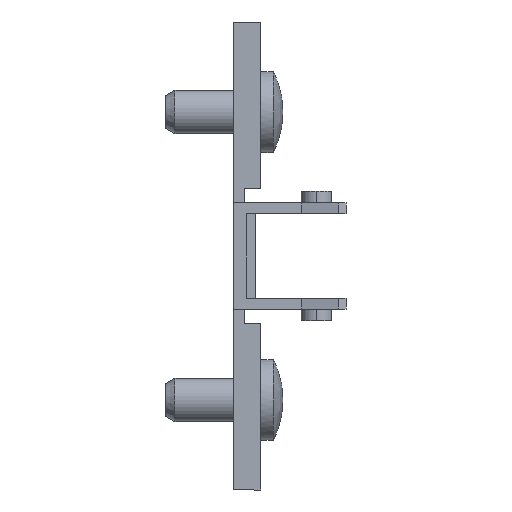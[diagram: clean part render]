
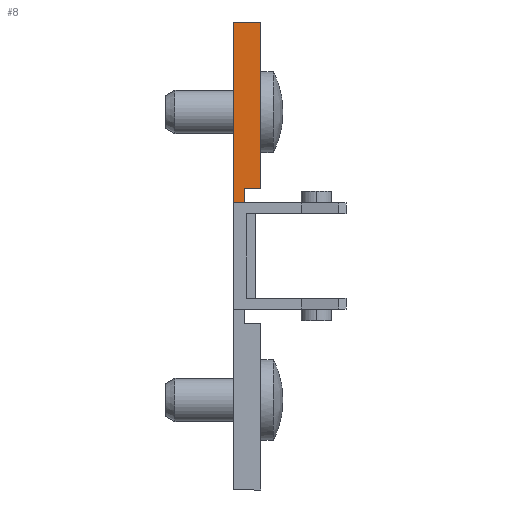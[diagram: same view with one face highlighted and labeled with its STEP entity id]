
A CAD part, front view. The second image highlights one B-rep face of the part: STEP entity #8.
In plain terms, the highlighted planar face has unit normal (0, -1, 0).
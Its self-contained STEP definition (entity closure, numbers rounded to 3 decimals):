
#8 = ADVANCED_FACE ( 'NONE', ( #1215 ), #471, .F. ) ;
#138 = VECTOR ( 'NONE', #2638, 1000. ) ;
#139 = LINE ( 'NONE', #2636, #138 ) ;
#183 = VECTOR ( 'NONE', #2614, 1000. ) ;
#184 = LINE ( 'NONE', #2611, #183 ) ;
#283 = VECTOR ( 'NONE', #2714, 1000. ) ;
#284 = LINE ( 'NONE', #2713, #283 ) ;
#417 = VECTOR ( 'NONE', #2307, 1000. ) ;
#418 = LINE ( 'NONE', #2308, #417 ) ;
#471 = PLANE ( 'NONE',  #962 ) ;
#504 = VERTEX_POINT ( 'NONE', #2110 ) ;
#550 = DIRECTION ( 'NONE',  ( 0., 1., 0. ) ) ;
#551 = DIRECTION ( 'NONE',  ( 0., 0., 1. ) ) ;
#553 = CARTESIAN_POINT ( 'NONE',  ( 0., -9., 5. ) ) ;
#613 = VERTEX_POINT ( 'NONE', #2135 ) ;
#614 = VERTEX_POINT ( 'NONE', #2136 ) ;
#615 = VERTEX_POINT ( 'NONE', #2200 ) ;
#618 = VERTEX_POINT ( 'NONE', #2139 ) ;
#671 = VERTEX_POINT ( 'NONE', #2090 ) ;
#962 = AXIS2_PLACEMENT_3D ( 'NONE', #553, #550, #551 ) ;
#1215 = FACE_OUTER_BOUND ( 'NONE', #1317, .T. ) ;
#1317 = EDGE_LOOP ( 'NONE', ( #1543, #1545, #1544, #1549, #1550, #1551 ) ) ;
#1543 = ORIENTED_EDGE ( 'NONE', *, *, #3398, .F. ) ;
#1544 = ORIENTED_EDGE ( 'NONE', *, *, #3165, .F. ) ;
#1545 = ORIENTED_EDGE ( 'NONE', *, *, #3245, .F. ) ;
#1549 = ORIENTED_EDGE ( 'NONE', *, *, #3319, .F. ) ;
#1550 = ORIENTED_EDGE ( 'NONE', *, *, #3188, .F. ) ;
#1551 = ORIENTED_EDGE ( 'NONE', *, *, #3374, .F. ) ;
#2090 = CARTESIAN_POINT ( 'NONE',  ( 3., -9., 7.5 ) ) ;
#2110 = CARTESIAN_POINT ( 'NONE',  ( 3., -9., 26. ) ) ;
#2135 = CARTESIAN_POINT ( 'NONE',  ( 0., -9., 26. ) ) ;
#2136 = CARTESIAN_POINT ( 'NONE',  ( 0., -9., 5.9 ) ) ;
#2139 = CARTESIAN_POINT ( 'NONE',  ( 1.2, -9., 5.9 ) ) ;
#2200 = CARTESIAN_POINT ( 'NONE',  ( 1.2, -9., 7.5 ) ) ;
#2307 = DIRECTION ( 'NONE',  ( -1., 0., 0. ) ) ;
#2308 = CARTESIAN_POINT ( 'NONE',  ( 0., -9., 5.9 ) ) ;
#2532 = CARTESIAN_POINT ( 'NONE',  ( 3., -9., 26. ) ) ;
#2533 = DIRECTION ( 'NONE',  ( 0., 0., -1. ) ) ;
#2611 = CARTESIAN_POINT ( 'NONE',  ( 0., -9., 26. ) ) ;
#2614 = DIRECTION ( 'NONE',  ( 1., 0., 0. ) ) ;
#2636 = CARTESIAN_POINT ( 'NONE',  ( 0., -9., 5. ) ) ;
#2638 = DIRECTION ( 'NONE',  ( 0., 0., 1. ) ) ;
#2713 = CARTESIAN_POINT ( 'NONE',  ( 3., -9., 7.5 ) ) ;
#2714 = DIRECTION ( 'NONE',  ( -1., 0., 0. ) ) ;
#2823 = CARTESIAN_POINT ( 'NONE',  ( 1.2, -9., 7.5 ) ) ;
#2866 = DIRECTION ( 'NONE',  ( 0., 0., -1. ) ) ;
#2940 = VECTOR ( 'NONE', #2533, 1000. ) ;
#2941 = LINE ( 'NONE', #2532, #2940 ) ;
#2977 = VECTOR ( 'NONE', #2866, 1000. ) ;
#2997 = LINE ( 'NONE', #2823, #2977 ) ;
#3165 = EDGE_CURVE ( 'NONE', #615, #618, #2997, .T. ) ;
#3188 = EDGE_CURVE ( 'NONE', #504, #671, #2941, .T. ) ;
#3245 = EDGE_CURVE ( 'NONE', #618, #614, #418, .T. ) ;
#3319 = EDGE_CURVE ( 'NONE', #671, #615, #284, .T. ) ;
#3374 = EDGE_CURVE ( 'NONE', #613, #504, #184, .T. ) ;
#3398 = EDGE_CURVE ( 'NONE', #614, #613, #139, .T. ) ;
